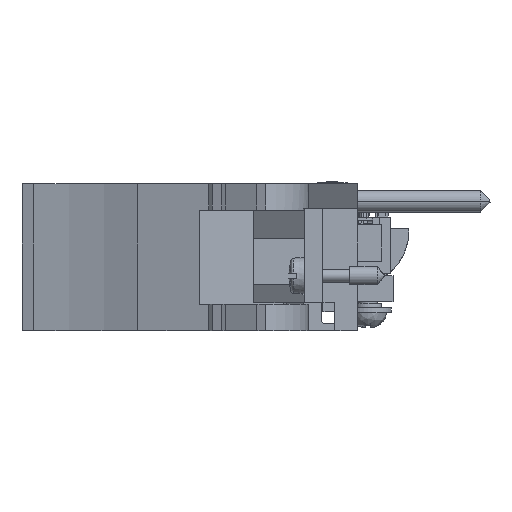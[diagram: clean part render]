
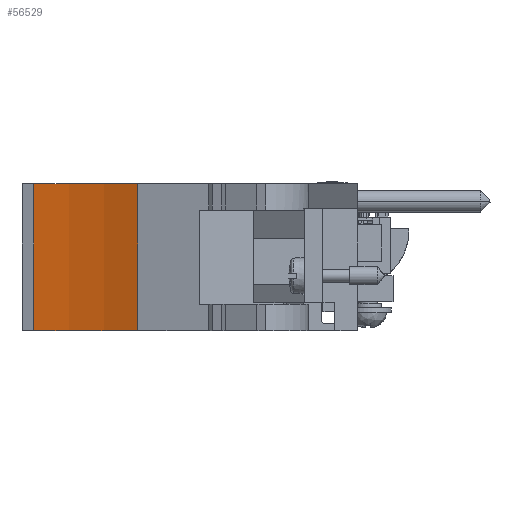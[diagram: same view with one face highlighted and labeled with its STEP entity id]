
A CAD part, front view. The second image highlights one B-rep face of the part: STEP entity #56529.
In plain terms, the highlighted cylindrical face has radius 51.46 mm (diameter 102.919 mm), a partial arc.
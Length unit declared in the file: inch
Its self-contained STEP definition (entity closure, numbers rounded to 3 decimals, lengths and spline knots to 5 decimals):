
#8614=CARTESIAN_POINT('',(-1.9742,-5.95044,-0.09388));
#8615=DIRECTION('',(0.,0.,1.));
#8616=DIRECTION('',(0.435,0.9,0.));
#8617=AXIS2_PLACEMENT_3D('',#8614,#8615,#8616);
#17879=CARTESIAN_POINT('',(-1.9742,-5.95044,0.69412));
#17880=DIRECTION('',(0.,0.,1.));
#17881=DIRECTION('',(0.435,0.9,0.));
#17882=AXIS2_PLACEMENT_3D('',#17879,#17880,#17881);
#18150=DIRECTION('',(0.,0.,1.));
#18151=VECTOR('',#18150,0.788);
#18152=CARTESIAN_POINT('',(-1.65087,-3.95044,-0.09388));
#18153=LINE('',#18152,#18151);
#18158=DIRECTION('',(0.,0.,1.));
#18159=VECTOR('',#18158,0.788);
#18160=CARTESIAN_POINT('',(-1.09289,-4.1262,
-0.09388));
#18161=LINE('',#18160,#18159);
#25866=CARTESIAN_POINT('',(-1.09289,-4.1262,
-0.09388));
#25867=CARTESIAN_POINT('',(-1.65087,-3.95044,-0.09388));
#25868=VERTEX_POINT('',#25866);
#25869=VERTEX_POINT('',#25867);
#25870=CARTESIAN_POINT('',(-1.09289,-4.1262,
0.69412));
#25871=CARTESIAN_POINT('',(-1.65087,-3.95044,0.69412));
#25872=VERTEX_POINT('',#25870);
#25873=VERTEX_POINT('',#25871);
#56517=CARTESIAN_POINT('',(-1.9742,-5.95044,0.69412));
#56518=DIRECTION('',(0.,0.,1.));
#56519=DIRECTION('',(0.,1.,0.));
#56520=AXIS2_PLACEMENT_3D('',#56517,#56518,#56519);
#56521=CYLINDRICAL_SURFACE('',#56520,2.02597);
#56522=ORIENTED_EDGE('',*,*,#44678,.T.);
#56523=ORIENTED_EDGE('',*,*,#56509,.T.);
#56524=ORIENTED_EDGE('',*,*,#56114,.F.);
#56526=ORIENTED_EDGE('',*,*,#56525,.F.);
#56527=EDGE_LOOP('',(#56522,#56523,#56524,#56526));
#56528=FACE_OUTER_BOUND('',#56527,.F.);
#56529=ADVANCED_FACE('',(#56528),#56521,.F.);
#8618=CIRCLE('',#8617,2.02597);
#17883=CIRCLE('',#17882,2.02597);
#44678=EDGE_CURVE('',#25868,#25869,#8618,.T.);
#56114=EDGE_CURVE('',#25872,#25873,#17883,.T.);
#56509=EDGE_CURVE('',#25869,#25873,#18153,.T.);
#56525=EDGE_CURVE('',#25868,#25872,#18161,.T.);
